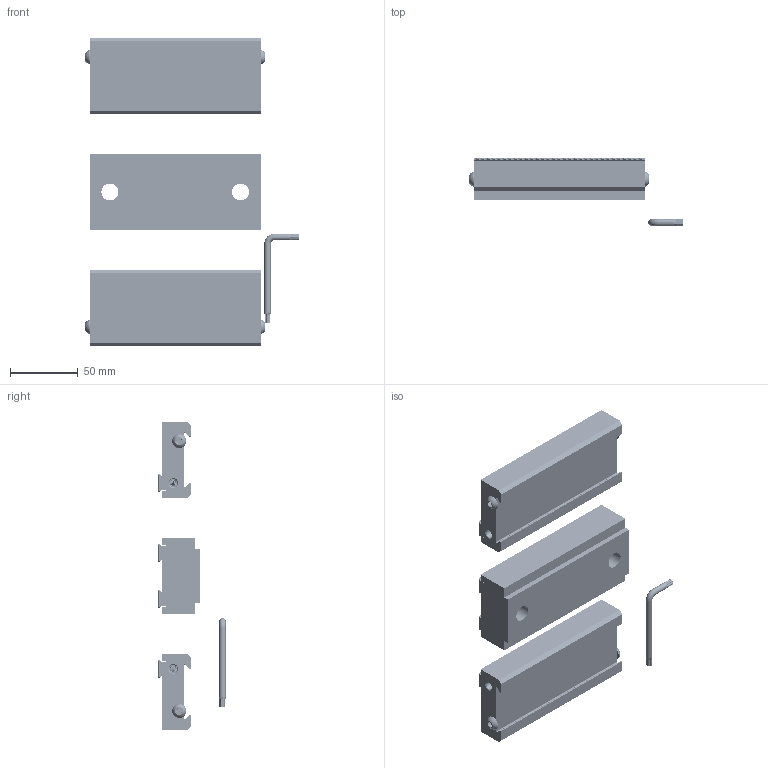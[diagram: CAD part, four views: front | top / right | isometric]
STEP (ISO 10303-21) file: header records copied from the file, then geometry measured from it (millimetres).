
FILE_DESCRIPTION (( 'STEP AP214' ), '1' );
FILE_NAME ('VA513-GJ-A_WEBSITE.STEP', '2025-08-15T23:12:07', ( '' ), ( '' ), 'SwSTEP 2.0', 'SolidWorks 2024', '' );
FILE_SCHEMA (( 'AUTOMOTIVE_DESIGN' ));
Length unit declared in the file: inch
Products named in the file (7): M6X8MM.BHCS_M6X8MM.BHCS; VGD-VA5-M_VGD-VA5-M; VA513-GJ-A_WEBSITE; IP25.L-KEY_IP25.L-KEY; M5X12MM.TPFHS_M5X12MM.TPFHS; VGD-VA5-F_VGD-VA5-F; VA56-7_VA56-7
Assembly tree (32 placements, depth 2):
  VA513-GJ-A_WEBSITE
    VGD-VA5-M_VGD-VA5-M  x2
    VA56-7_VA56-7  x4
    VGD-VA5-F_VGD-VA5-F
    M6X8MM.BHCS_M6X8MM.BHCS  x4
    M5X12MM.TPFHS_M5X12MM.TPFHS  x20
    IP25.L-KEY_IP25.L-KEY
Bounding box: 157.04 x 49.54 x 226.73 mm (x, y, z)
Volume: 445395.8 mm3; surface area: 112364.9 mm2
Topology: 32 solids, 32 shells, 1995 faces, 5042 edges, 3171 vertices
Faces by surface type: plane 796, cylinder 718, cone 344, bspline 76, torus 57, sphere 4
Full cylindrical faces by diameter (mm): 4.2 x20, 4.762 x2, 5 x28, 5.5 x20, 6 x8, 10.25 x20, 10.5 x24, 12.5 x2, 19 x2
Entity records: 22145 total; most frequent: CARTESIAN_POINT 8563, ORIENTED_EDGE 2714, DIRECTION 2610, EDGE_CURVE 1357, AXIS2_PLACEMENT_3D 1002, VERTEX_POINT 915, EDGE_LOOP 734, FACE_OUTER_BOUND 644
